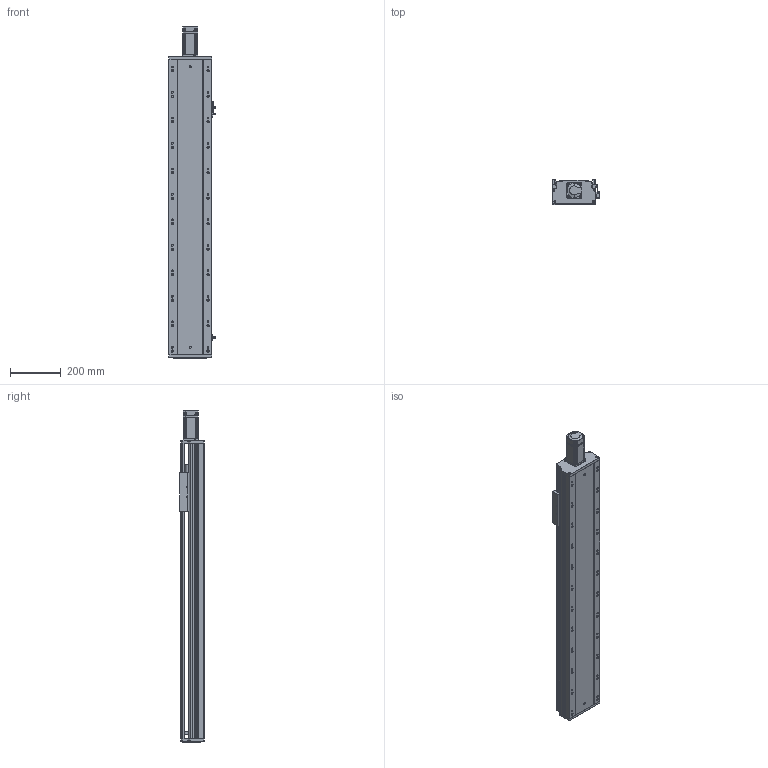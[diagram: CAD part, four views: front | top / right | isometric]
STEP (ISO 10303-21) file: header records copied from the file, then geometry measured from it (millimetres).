
FILE_DESCRIPTION (( 'STEP AP203' ), '1' );
FILE_NAME ('RY170-L2020-300-MK.SLDASM_850.step', '2021-02-20T03:51:06', ( '盈信电脑' ), ( '东莞市道滘镇水果街19号' ), 'SwSTEP 2.0', 'SolidWorks 2012', '' );
FILE_SCHEMA (( 'CONFIG_CONTROL_DESIGN' ));
Length unit declared in the file: millimetre
Products named in the file (12): RY170-L2020-300-MK.SLDASM_850; 滅袉蝶18-10; 滅袉蝶18-28; RY170外置感应片(200共用）; RY170ヶ醱裔啣; 覜茼ん672; RY170臏賑輸20佪裝蹟譫; RY170綴裔啣; 侂狟400W侜督萇儂; 15; RY170-300倰第裔啣-MK_850; RY170-300倰第菁釱-MK_850
Assembly tree (13 placements, depth 3):
  RY170-L2020-300-MK.SLDASM_850
    RY170-300倰第菁釱-MK_850
    RY170-300倰第裔啣-MK_850
    RY170臏賑輸20佪裝蹟譫
    侂狟400W侜督萇儂
      15
    RY170綴裔啣
    覜茼ん672  x3
    RY170外置感应片(200共用）
    RY170ヶ醱裔啣
    滅袉蝶18-28
    滅袉蝶18-10
Bounding box: 183.7 x 97 x 1302.5 mm (x, y, z)
Volume: 6063214 mm3; surface area: 1954992.1 mm2
Topology: 12 solids, 12 shells, 2228 faces, 6516 edges, 4212 vertices
Faces by surface type: plane 1166, cylinder 854, cone 179, bspline 29
Entity records: 72681 total; most frequent: CARTESIAN_POINT 16827, ORIENTED_EDGE 11812, DIRECTION 10993, EDGE_CURVE 5906, VERTEX_POINT 3892, LINE 3681, VECTOR 3681, AXIS2_PLACEMENT_3D 3656
